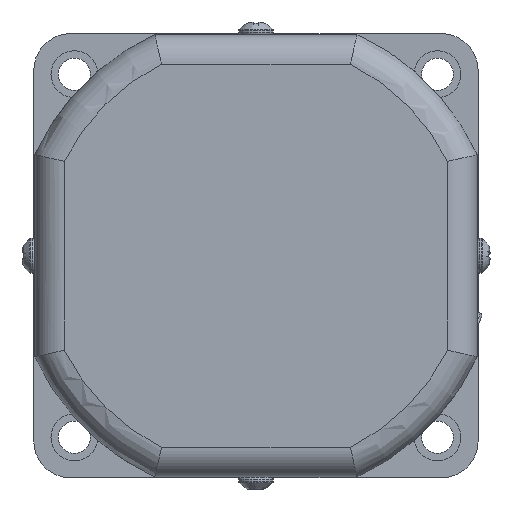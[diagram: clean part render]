
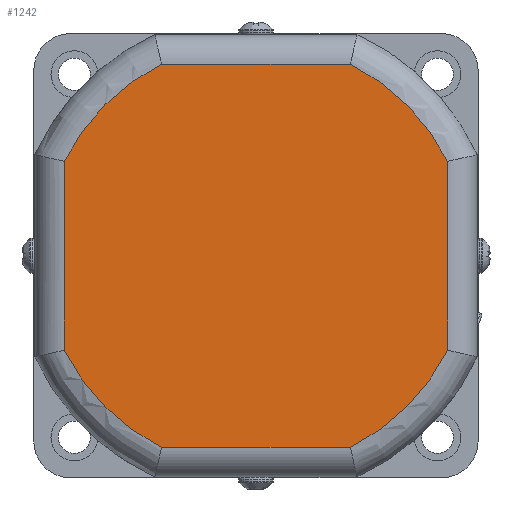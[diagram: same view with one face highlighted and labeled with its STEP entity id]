
A CAD part, left-side view. The second image highlights one B-rep face of the part: STEP entity #1242.
In plain terms, the highlighted planar face has unit normal (-1, 0, 0).
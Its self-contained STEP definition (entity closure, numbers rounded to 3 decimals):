
#755=CARTESIAN_POINT('',(-23.,-19.108,-38.8));
#756=VERTEX_POINT('',#755);
#783=CARTESIAN_POINT('',(-23.,-38.8,-19.108));
#784=VERTEX_POINT('',#783);
#802=CARTESIAN_POINT('',(-23.,0.,0.));
#803=DIRECTION('',(1.0,0.0,0.0));
#804=DIRECTION('',(0.0,-0.707,-0.707));
#805=AXIS2_PLACEMENT_3D('',#802,#803,#804);
#806=CIRCLE('',#805,43.25);
#807=EDGE_CURVE('',#784,#756,#806,.T.);
#819=CARTESIAN_POINT('',(-23.,-38.8,19.108));
#820=VERTEX_POINT('',#819);
#838=CARTESIAN_POINT('',(-23.,-38.8,19.108));
#839=DIRECTION('',(0.0,0.0,-1.0));
#840=VECTOR('',#839,38.216);
#841=LINE('',#838,#840);
#842=EDGE_CURVE('',#820,#784,#841,.T.);
#861=CARTESIAN_POINT('',(-23.,19.108,-38.8));
#862=VERTEX_POINT('',#861);
#887=CARTESIAN_POINT('',(-23.,-19.108,-38.8));
#888=DIRECTION('',(0.0,1.0,0.0));
#889=VECTOR('',#888,38.216);
#890=LINE('',#887,#889);
#891=EDGE_CURVE('',#756,#862,#890,.T.);
#903=CARTESIAN_POINT('',(-23.,-19.108,38.8));
#904=VERTEX_POINT('',#903);
#922=CARTESIAN_POINT('',(-23.,0.,0.));
#923=DIRECTION('',(1.0,0.0,0.0));
#924=DIRECTION('',(0.0,-0.707,0.707));
#925=AXIS2_PLACEMENT_3D('',#922,#923,#924);
#926=CIRCLE('',#925,43.25);
#927=EDGE_CURVE('',#904,#820,#926,.T.);
#947=CARTESIAN_POINT('',(-23.,38.8,-19.108));
#948=VERTEX_POINT('',#947);
#974=CARTESIAN_POINT('',(-23.,0.,0.));
#975=DIRECTION('',(1.0,0.0,0.0));
#976=DIRECTION('',(0.0,0.707,-0.707));
#977=AXIS2_PLACEMENT_3D('',#974,#975,#976);
#978=CIRCLE('',#977,43.25);
#979=EDGE_CURVE('',#862,#948,#978,.T.);
#991=CARTESIAN_POINT('',(-23.,19.108,38.8));
#992=VERTEX_POINT('',#991);
#1010=CARTESIAN_POINT('',(-23.,19.108,38.8));
#1011=DIRECTION('',(0.0,-1.0,0.0));
#1012=VECTOR('',#1011,38.216);
#1013=LINE('',#1010,#1012);
#1014=EDGE_CURVE('',#992,#904,#1013,.T.);
#1031=CARTESIAN_POINT('',(-23.,38.8,19.108));
#1032=VERTEX_POINT('',#1031);
#1059=CARTESIAN_POINT('',(-23.,38.8,-19.108));
#1060=DIRECTION('',(0.0,0.0,1.0));
#1061=VECTOR('',#1060,38.216);
#1062=LINE('',#1059,#1061);
#1063=EDGE_CURVE('',#948,#1032,#1062,.T.);
#1074=CARTESIAN_POINT('',(-23.,0.,0.));
#1075=DIRECTION('',(1.0,0.0,0.0));
#1076=DIRECTION('',(0.0,0.707,0.707));
#1077=AXIS2_PLACEMENT_3D('',#1074,#1075,#1076);
#1078=CIRCLE('',#1077,43.25);
#1079=EDGE_CURVE('',#1032,#992,#1078,.T.);
#1227=CARTESIAN_POINT('',(-23.,0.,0.));
#1228=DIRECTION('',(1.0,0.0,0.0));
#1229=DIRECTION('',(0.0,0.0,-1.0));
#1230=AXIS2_PLACEMENT_3D('',#1227,#1228,#1229);
#1231=PLANE('',#1230);
#1232=ORIENTED_EDGE('',*,*,#1063,.F.);
#1233=ORIENTED_EDGE('',*,*,#979,.F.);
#1234=ORIENTED_EDGE('',*,*,#891,.F.);
#1235=ORIENTED_EDGE('',*,*,#807,.F.);
#1236=ORIENTED_EDGE('',*,*,#842,.F.);
#1237=ORIENTED_EDGE('',*,*,#927,.F.);
#1238=ORIENTED_EDGE('',*,*,#1014,.F.);
#1239=ORIENTED_EDGE('',*,*,#1079,.F.);
#1240=EDGE_LOOP('',(#1232,#1233,#1234,#1235,#1236,#1237,#1238,#1239));
#1241=FACE_OUTER_BOUND('',#1240,.T.);
#1242=ADVANCED_FACE('',(#1241),#1231,.F.);
